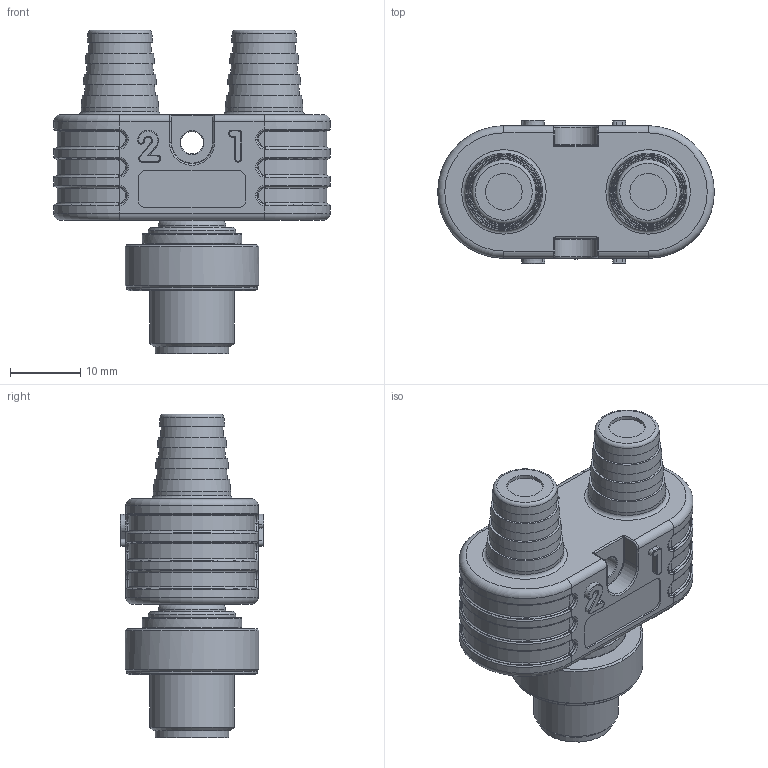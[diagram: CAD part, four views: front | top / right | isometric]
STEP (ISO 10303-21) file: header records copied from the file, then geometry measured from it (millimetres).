
FILE_DESCRIPTION(/* description */ (''),/* implementation_level */ '2;1');
FILE_NAME(/* name */ 'L:\CAD Inventor\Workspace\Catalogs\CATALOG-TURCK CONNECTORS\YBZ2-FSM_2 CABLES.stp',/* time_stamp */ '2021-07-14T09:39:22-05:00',/* author */ ('RSwans'),/* organization */ (''),/* preprocessor_version */ 'ST-DEVELOPER v16.5',/* originating_system */ 'Autodesk Inventor 2017',/* authorisation */ '');
FILE_SCHEMA (('AUTOMOTIVE_DESIGN { 1 0 10303 214 3 1 1 }'));
Length unit declared in the file: millimetre
Products named in the file (1): Part1
Bounding box: 39.3 x 20.4 x 46 mm (x, y, z)
Volume: 13741.8 mm3; surface area: 7054.2 mm2
Topology: 1 solids, 6 shells, 742 faces, 1810 edges, 1121 vertices
Faces by surface type: cylinder 272, plane 259, torus 112, bspline 64, cone 35
Full cylindrical faces by diameter (mm): 1 x8, 1.2 x8, 1.8 x12, 3 x1, 3.2 x1, 5.2 x2, 7 x1, 8.3 x1, 9.6 x1, 9.9 x1, 10 x1, 10.5 x1, 10.7 x1, 11 x3, 12 x1, 12.5 x1, 13.2 x1, 14.2 x1, 18.5 x1, 19 x1
Entity records: 23382 total; most frequent: CARTESIAN_POINT 4797, DIRECTION 4164, ORIENTED_EDGE 3498, AXIS2_PLACEMENT_3D 1776, EDGE_CURVE 1749, VERTEX_POINT 1103, CIRCLE 1094, EDGE_LOOP 852
